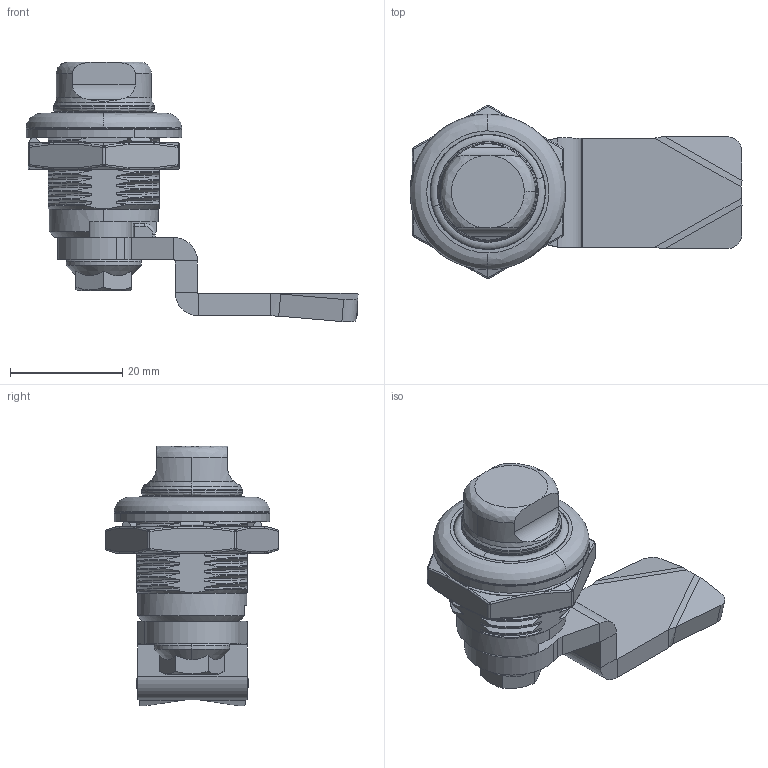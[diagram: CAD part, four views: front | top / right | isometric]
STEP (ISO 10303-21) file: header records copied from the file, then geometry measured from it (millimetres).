
FILE_DESCRIPTION (( 'STEP AP214' ), '1' );
FILE_NAME ('CUYUE D1-1401-02D.STEP', '2026-06-17T05:11:04', ( '' ), ( '' ), 'SwSTEP 2.0', 'SolidWorks 2020', '' );
FILE_SCHEMA (( 'AUTOMOTIVE_DESIGN' ));
Length unit declared in the file: millimetre
Products named in the file (9): 66.sldasm-Part-8; 66.sldasm-Part-3; 66.sldasm-Part-5; CUYUE D1-1401-02D; 66.sldasm-Part-1; 66.sldasm-Part-6; 66.sldasm-Part-7; 66.sldasm-Part-4; 66.sldasm-Part-2
Assembly tree (7 placements, depth 2):
  CUYUE D1-1401-02D
    66.sldasm-Part-1
    66.sldasm-Part-2
    66.sldasm-Part-3
    66.sldasm-Part-4
    66.sldasm-Part-5
    66.sldasm-Part-6
    66.sldasm-Part-8
  66.sldasm-Part-7
Bounding box: 59.28 x 31.02 x 46.37 mm (x, y, z)
Volume: 15664.4 mm3; surface area: 12380.9 mm2
Topology: 7 solids, 7 shells, 603 faces, 1573 edges, 992 vertices
Faces by surface type: cylinder 202, bspline 195, plane 124, cone 44, torus 28, sphere 10
Entity records: 73577 total; most frequent: CARTESIAN_POINT 60410, ORIENTED_EDGE 3142, DIRECTION 2015, EDGE_CURVE 1571, VERTEX_POINT 992, AXIS2_PLACEMENT_3D 739, EDGE_LOOP 623, FACE_OUTER_BOUND 603
